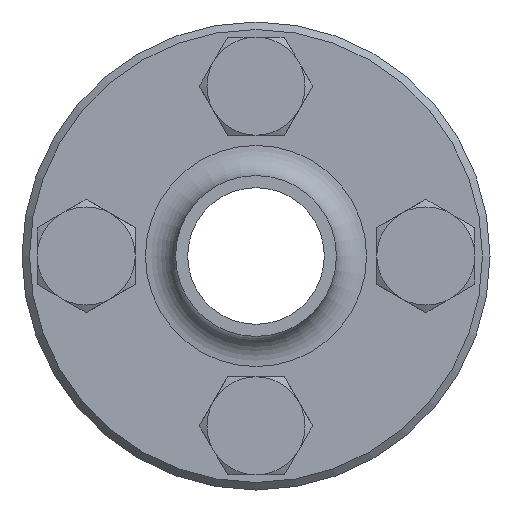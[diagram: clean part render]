
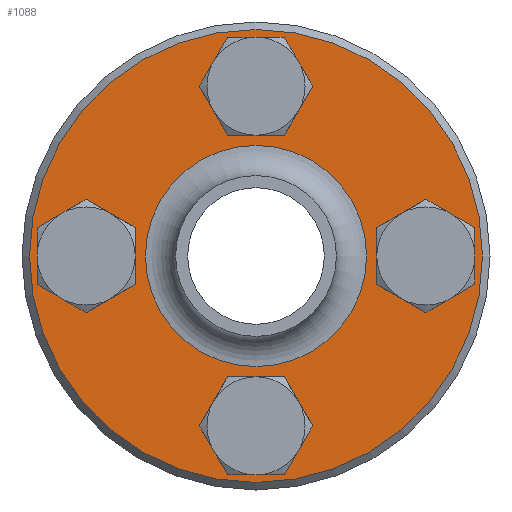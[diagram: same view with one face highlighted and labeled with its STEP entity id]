
A CAD part, front view. The second image highlights one B-rep face of the part: STEP entity #1088.
In plain terms, the highlighted planar face has unit normal (0, -1, 0).
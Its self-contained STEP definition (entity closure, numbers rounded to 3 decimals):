
#152=PLANE('',#1195);
#211=FACE_BOUND('',#381,.T.);
#212=FACE_BOUND('',#382,.T.);
#213=FACE_BOUND('',#383,.T.);
#214=FACE_BOUND('',#384,.T.);
#215=FACE_BOUND('',#385,.T.);
#280=FACE_OUTER_BOUND('',#380,.T.);
#380=EDGE_LOOP('',(#812));
#381=EDGE_LOOP('',(#813));
#382=EDGE_LOOP('',(#814));
#383=EDGE_LOOP('',(#815));
#384=EDGE_LOOP('',(#816));
#385=EDGE_LOOP('',(#817));
#491=CIRCLE('',#1155,4.5);
#493=CIRCLE('',#1158,4.5);
#495=CIRCLE('',#1161,4.5);
#497=CIRCLE('',#1164,4.5);
#513=CIRCLE('',#1194,30.);
#514=CIRCLE('',#1196,14.65);
#563=VERTEX_POINT('',#1674);
#565=VERTEX_POINT('',#1679);
#567=VERTEX_POINT('',#1684);
#569=VERTEX_POINT('',#1689);
#585=VERTEX_POINT('',#1735);
#586=VERTEX_POINT('',#1738);
#658=EDGE_CURVE('',#563,#563,#491,.T.);
#660=EDGE_CURVE('',#565,#565,#493,.T.);
#662=EDGE_CURVE('',#567,#567,#495,.T.);
#664=EDGE_CURVE('',#569,#569,#497,.T.);
#680=EDGE_CURVE('',#585,#585,#513,.T.);
#681=EDGE_CURVE('',#586,#586,#514,.T.);
#812=ORIENTED_EDGE('',*,*,#680,.T.);
#813=ORIENTED_EDGE('',*,*,#658,.T.);
#814=ORIENTED_EDGE('',*,*,#660,.T.);
#815=ORIENTED_EDGE('',*,*,#662,.T.);
#816=ORIENTED_EDGE('',*,*,#664,.T.);
#817=ORIENTED_EDGE('',*,*,#681,.F.);
#1088=ADVANCED_FACE('',(#280,#211,#212,#213,#214,#215),#152,.T.);
#1155=AXIS2_PLACEMENT_3D('',#1675,#1324,#1325);
#1158=AXIS2_PLACEMENT_3D('',#1680,#1330,#1331);
#1161=AXIS2_PLACEMENT_3D('',#1685,#1336,#1337);
#1164=AXIS2_PLACEMENT_3D('',#1690,#1342,#1343);
#1194=AXIS2_PLACEMENT_3D('',#1736,#1402,#1403);
#1195=AXIS2_PLACEMENT_3D('',#1737,#1404,#1405);
#1196=AXIS2_PLACEMENT_3D('',#1739,#1406,#1407);
#1324=DIRECTION('center_axis',(0.,1.,0.));
#1325=DIRECTION('ref_axis',(0.,0.,1.));
#1330=DIRECTION('center_axis',(0.,1.,0.));
#1331=DIRECTION('ref_axis',(1.,0.,0.));
#1336=DIRECTION('center_axis',(0.,1.,0.));
#1337=DIRECTION('ref_axis',(0.,0.,-1.));
#1342=DIRECTION('center_axis',(0.,1.,0.));
#1343=DIRECTION('ref_axis',(-1.,0.,0.));
#1402=DIRECTION('center_axis',(0.,-1.,0.));
#1403=DIRECTION('ref_axis',(1.,0.,0.));
#1404=DIRECTION('center_axis',(0.,-1.,0.));
#1405=DIRECTION('ref_axis',(0.,0.,-1.));
#1406=DIRECTION('center_axis',(0.,-1.,0.));
#1407=DIRECTION('ref_axis',(1.,0.,0.));
#1674=CARTESIAN_POINT('',(-22.5,30.,-4.5));
#1675=CARTESIAN_POINT('Origin',(-22.5,30.,0.));
#1679=CARTESIAN_POINT('',(-4.5,30.,22.5));
#1680=CARTESIAN_POINT('Origin',(0.,30.,22.5));
#1684=CARTESIAN_POINT('',(22.5,30.,4.5));
#1685=CARTESIAN_POINT('Origin',(22.5,30.,0.));
#1689=CARTESIAN_POINT('',(4.5,30.,-22.5));
#1690=CARTESIAN_POINT('Origin',(0.,30.,-22.5));
#1735=CARTESIAN_POINT('',(30.,30.,0.));
#1736=CARTESIAN_POINT('Origin',(0.,30.,0.));
#1737=CARTESIAN_POINT('Origin',(22.325,30.,0.));
#1738=CARTESIAN_POINT('',(14.65,30.,0.));
#1739=CARTESIAN_POINT('Origin',(0.,30.,0.));
